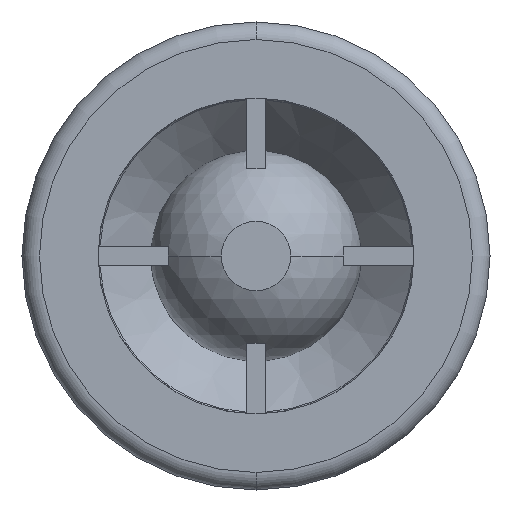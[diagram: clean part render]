
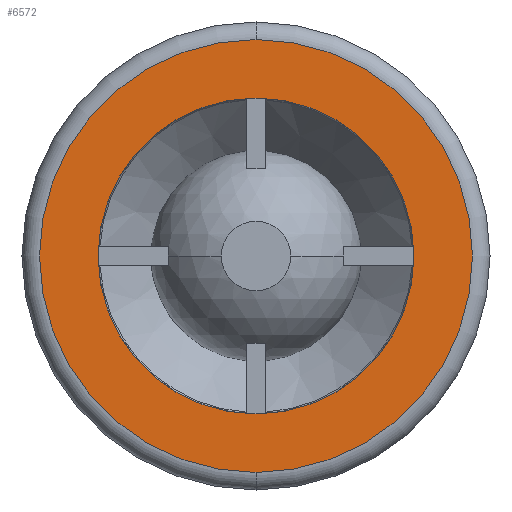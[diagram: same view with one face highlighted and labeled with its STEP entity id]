
A CAD part, front view. The second image highlights one B-rep face of the part: STEP entity #6572.
In plain terms, the highlighted planar face has unit normal (0, -1, 0).
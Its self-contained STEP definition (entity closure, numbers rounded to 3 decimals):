
#125 = CARTESIAN_POINT ( 'NONE',  ( 0., 0., -18.5 ) ) ;
#126 = CARTESIAN_POINT ( 'NONE',  ( 0., 0., 18.5 ) ) ;
#132 = DIRECTION ( 'NONE',  ( 0., 0., 1. ) ) ;
#133 = DIRECTION ( 'NONE',  ( 0., -1., 0. ) ) ;
#134 = CARTESIAN_POINT ( 'NONE',  ( 0., 0., 0. ) ) ;
#135 = AXIS2_PLACEMENT_3D ( 'NONE', #134, #133, #132 ) ;
#136 = CIRCLE ( 'NONE', #135, 18.5 ) ;
#2874 = CARTESIAN_POINT ( 'NONE',  ( 0., 0., 13.5 ) ) ;
#3076 = CARTESIAN_POINT ( 'NONE',  ( 0., 0., -13.5 ) ) ;
#3077 = DIRECTION ( 'NONE',  ( 0., 0., -1. ) ) ;
#3078 = DIRECTION ( 'NONE',  ( 0., -1., 0. ) ) ;
#3079 = CARTESIAN_POINT ( 'NONE',  ( 0., 0., 0. ) ) ;
#3080 = AXIS2_PLACEMENT_3D ( 'NONE', #3079, #3078, #3077 ) ;
#3081 = CIRCLE ( 'NONE', #3080, 13.5 ) ;
#3110 = DIRECTION ( 'NONE',  ( 0., 0., -1. ) ) ;
#3111 = DIRECTION ( 'NONE',  ( 0., -1., 0. ) ) ;
#3112 = CARTESIAN_POINT ( 'NONE',  ( 0., 0., 0. ) ) ;
#3113 = AXIS2_PLACEMENT_3D ( 'NONE', #3112, #3111, #3110 ) ;
#3114 = CIRCLE ( 'NONE', #3113, 13.5 ) ;
#3340 = PLANE ( 'NONE',  #3342 ) ;
#3341 = CARTESIAN_POINT ( 'NONE',  ( -13.5, 0., 0. ) ) ;
#3342 = AXIS2_PLACEMENT_3D ( 'NONE', #3341, #3402, #3401 ) ;
#3343 = FACE_BOUND ( 'NONE', #6576, .T. ) ;
#3344 = FACE_OUTER_BOUND ( 'NONE', #6584, .T. ) ;
#3396 = DIRECTION ( 'NONE',  ( 0., 0., 1. ) ) ;
#3397 = DIRECTION ( 'NONE',  ( 0., -1., 0. ) ) ;
#3398 = CARTESIAN_POINT ( 'NONE',  ( 0., 0., 0. ) ) ;
#3399 = AXIS2_PLACEMENT_3D ( 'NONE', #3398, #3397, #3396 ) ;
#3400 = CIRCLE ( 'NONE', #3399, 18.5 ) ;
#3401 = DIRECTION ( 'NONE',  ( 0., 0., 1. ) ) ;
#3402 = DIRECTION ( 'NONE',  ( 0., 1., 0. ) ) ;
#4830 = EDGE_CURVE ( 'NONE', #4834, #4833, #136, .T. ) ;
#4833 = VERTEX_POINT ( 'NONE', #126 ) ;
#4834 = VERTEX_POINT ( 'NONE', #125 ) ;
#6337 = VERTEX_POINT ( 'NONE', #2874 ) ;
#6421 = EDGE_CURVE ( 'NONE', #6337, #6422, #3081, .T. ) ;
#6422 = VERTEX_POINT ( 'NONE', #3076 ) ;
#6435 = EDGE_CURVE ( 'NONE', #6422, #6337, #3114, .T. ) ;
#6572 = ADVANCED_FACE ( 'NONE', ( #3344, #3343 ), #3340, .F. ) ;
#6573 = ORIENTED_EDGE ( 'NONE', *, *, #6574, .T. ) ;
#6574 = EDGE_CURVE ( 'NONE', #4833, #4834, #3400, .T. ) ;
#6575 = ORIENTED_EDGE ( 'NONE', *, *, #4830, .T. ) ;
#6576 = EDGE_LOOP ( 'NONE', ( #6577, #6601 ) ) ;
#6577 = ORIENTED_EDGE ( 'NONE', *, *, #6435, .F. ) ;
#6584 = EDGE_LOOP ( 'NONE', ( #6573, #6575 ) ) ;
#6601 = ORIENTED_EDGE ( 'NONE', *, *, #6421, .F. ) ;
